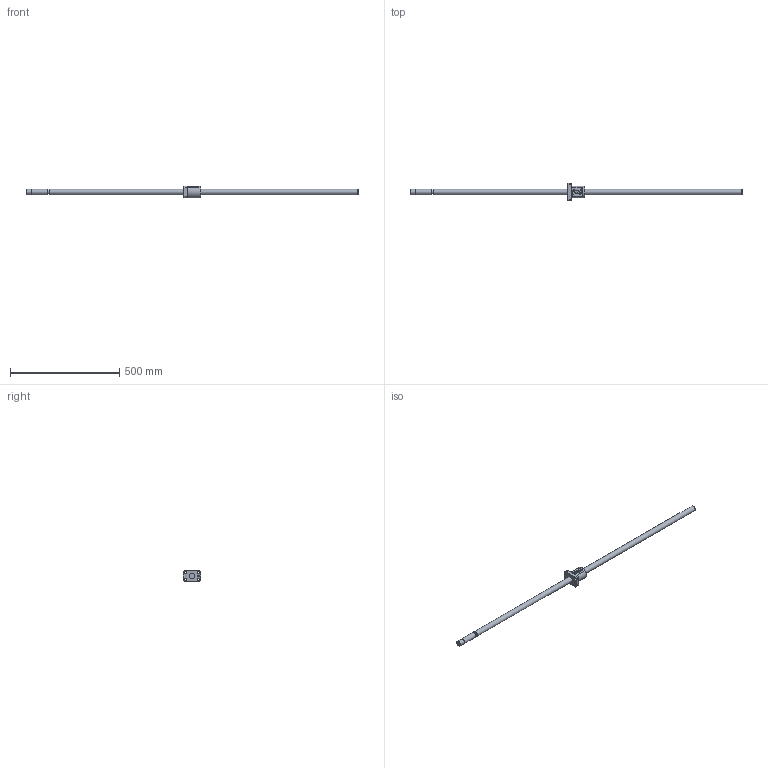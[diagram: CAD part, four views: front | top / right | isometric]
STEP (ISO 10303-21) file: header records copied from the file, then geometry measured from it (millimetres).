
FILE_DESCRIPTION((''),'2;1');
FILE_NAME('D:\製品 (図面)\カタログ用3D\ネジ関連\STEP形式\KBS(C)\KBS(C)2525-1520.stp','2010-06-02T14:22:23',('Tsuchiya'),(''),'Autodesk Inventor 10','Autodesk Inventor 10','');
FILE_SCHEMA(('AUTOMOTIVE_DESIGN { 1 0 10303 214 1 1 1 1 }'));
Length unit declared in the file: millimetre
Products named in the file (3): KBS(C)2525-1520; KBS(C)2525-15201; KBS(C)2525-15202
Assembly tree (2 placements, depth 2):
  KBS(C)2525-1520
    KBS(C)2525-15201
    KBS(C)2525-15202
Bounding box: 1520 x 78 x 54 mm (x, y, z)
Volume: 894897.7 mm3; surface area: 151366.1 mm2
Topology: 2 solids, 2 shells, 103 faces, 261 edges, 172 vertices
Faces by surface type: plane 42, cylinder 35, bspline 20, cone 4, torus 2
Full cylindrical faces by diameter (mm): 4.8 x1, 6 x1, 7.4 x1, 9 x4, 14 x4, 21 x1, 24.5 x1, 25 x3, 27 x2, 54 x1
Entity records: 3307 total; most frequent: CARTESIAN_POINT 936, DIRECTION 448, ORIENTED_EDGE 448, EDGE_CURVE 224, AXIS2_PLACEMENT_3D 168, VERTEX_POINT 164, EDGE_LOOP 158, VECTOR 112
